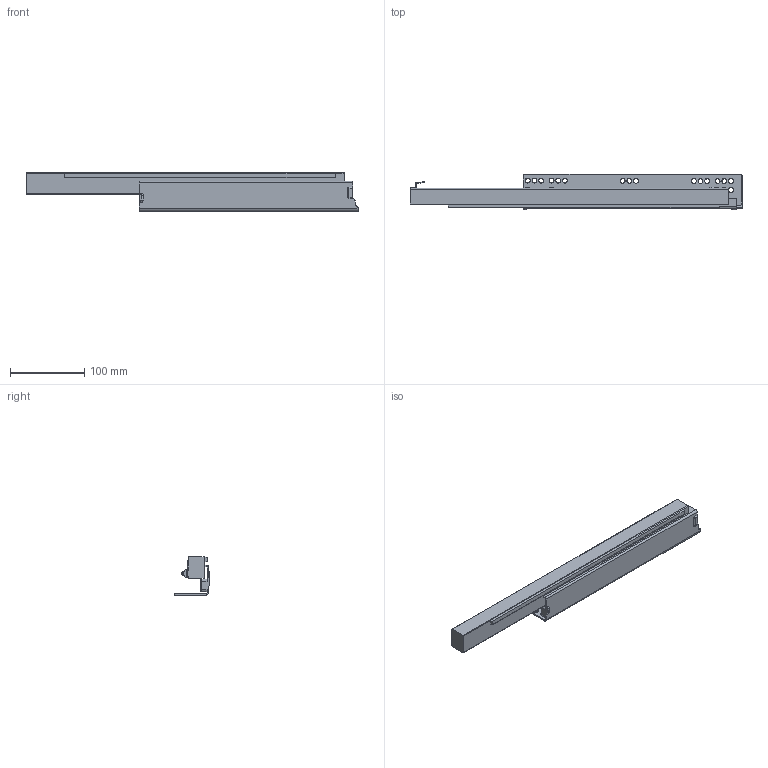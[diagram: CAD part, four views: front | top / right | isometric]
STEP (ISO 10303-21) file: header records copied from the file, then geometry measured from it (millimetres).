
FILE_DESCRIPTION (( 'STEP AP203' ), '1' );
FILE_NAME ('HT104504H-R(敕磁).STEP', '2021-07-31T01:23:51', ( 'Users' ), ( 'Microsoft' ), 'SwSTEP 2.0', 'SolidWorks 2018', '' );
FILE_SCHEMA (( 'CONFIG_CONTROL_DESIGN' ));
Length unit declared in the file: millimetre
Products named in the file (1): HT104504H-R(敕磁)
Bounding box: 448 x 47.5 x 51.73 mm (x, y, z)
Volume: 363008.9 mm3; surface area: 102314.9 mm2
Topology: 1 solids, 1 shells, 212 faces, 560 edges, 350 vertices
Faces by surface type: cylinder 94, plane 64, cone 40, torus 12, sphere 2
Entity records: 6719 total; most frequent: DIRECTION 1227, CARTESIAN_POINT 1136, ORIENTED_EDGE 1116, EDGE_CURVE 558, AXIS2_PLACEMENT_3D 461, VERTEX_POINT 350, VECTOR 305, LINE 305
